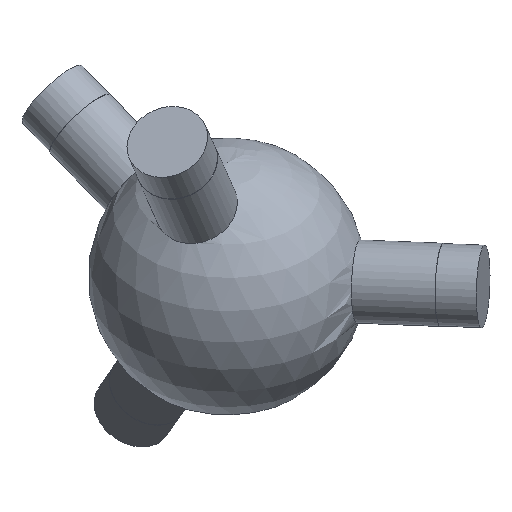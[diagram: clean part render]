
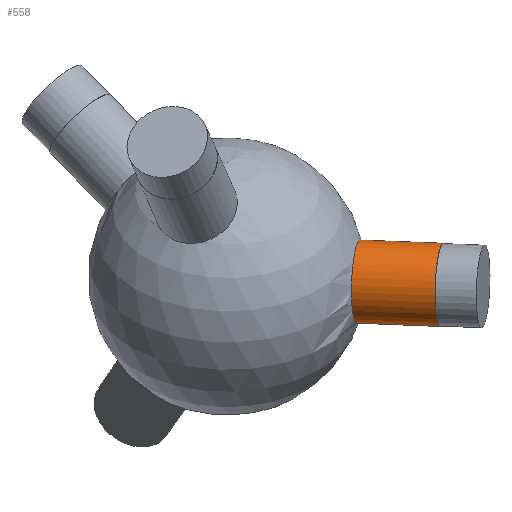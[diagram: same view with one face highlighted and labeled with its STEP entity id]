
A CAD part, isometric view. The second image highlights one B-rep face of the part: STEP entity #558.
In plain terms, the highlighted cylindrical face has radius 6 mm (diameter 12 mm), a full revolution.
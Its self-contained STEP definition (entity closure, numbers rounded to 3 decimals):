
#35 = SPHERICAL_SURFACE('',#36,20.);
#36 = AXIS2_PLACEMENT_3D('',#37,#38,#39);
#37 = CARTESIAN_POINT('',(0.,0.,0.));
#38 = DIRECTION('',(0.,0.,1.));
#39 = DIRECTION('',(1.,0.,-0.));
#237 = EDGE_CURVE('',#238,#238,#240,.T.);
#238 = VERTEX_POINT('',#239);
#239 = CARTESIAN_POINT('',(6.391,-18.915,1.167
    ));
#240 = SURFACE_CURVE('',#241,(#246,#308),.PCURVE_S1.);
#241 = CIRCLE('',#242,6.);
#242 = AXIS2_PLACEMENT_3D('',#243,#244,#245);
#243 = CARTESIAN_POINT('',(11.235,-15.375,
    1.167));
#244 = DIRECTION('',(0.589,-0.806,0.061));
#245 = DIRECTION('',(0.807,0.59,0.));
#246 = PCURVE('',#35,#247);
#247 = DEFINITIONAL_REPRESENTATION('',(#248),#307);
#248 = B_SPLINE_CURVE_WITH_KNOTS('',8,(#249,#250,#251,#252,#253,#254,
    #255,#256,#257,#258,#259,#260,#261,#262,#263,#264,#265,#266,#267,
    #268,#269,#270,#271,#272,#273,#274,#275,#276,#277,#278,#279,#280,
    #281,#282,#283,#284,#285,#286,#287,#288,#289,#290,#291,#292,#293,
    #294,#295,#296,#297,#298,#299,#300,#301,#302,#303,#304,#305,#306),
  .UNSPECIFIED.,.F.,.F.,(9,7,7,7,7,7,7,7,9),(3.142,
    3.927,4.614,5.216,6.268,
    7.057,7.649,8.537,9.425),
  .UNSPECIFIED.);
#249 = CARTESIAN_POINT('',(5.038,0.058));
#250 = CARTESIAN_POINT('',(5.039,0.029));
#251 = CARTESIAN_POINT('',(5.042,0.));
#252 = CARTESIAN_POINT('',(5.049,-0.029));
#253 = CARTESIAN_POINT('',(5.059,-0.058));
#254 = CARTESIAN_POINT('',(5.072,-0.084));
#255 = CARTESIAN_POINT('',(5.088,-0.11));
#256 = CARTESIAN_POINT('',(5.106,-0.133));
#257 = CARTESIAN_POINT('',(5.145,-0.172));
#258 = CARTESIAN_POINT('',(5.165,-0.189));
#259 = CARTESIAN_POINT('',(5.187,-0.204));
#260 = CARTESIAN_POINT('',(5.211,-0.216));
#261 = CARTESIAN_POINT('',(5.235,-0.226));
#262 = CARTESIAN_POINT('',(5.261,-0.234));
#263 = CARTESIAN_POINT('',(5.287,-0.239));
#264 = CARTESIAN_POINT('',(5.336,-0.244));
#265 = CARTESIAN_POINT('',(5.36,-0.245));
#266 = CARTESIAN_POINT('',(5.383,-0.243));
#267 = CARTESIAN_POINT('',(5.406,-0.239));
#268 = CARTESIAN_POINT('',(5.429,-0.233));
#269 = CARTESIAN_POINT('',(5.451,-0.226));
#270 = CARTESIAN_POINT('',(5.472,-0.217));
#271 = CARTESIAN_POINT('',(5.527,-0.186));
#272 = CARTESIAN_POINT('',(5.559,-0.161));
#273 = CARTESIAN_POINT('',(5.587,-0.132));
#274 = CARTESIAN_POINT('',(5.61,-0.099));
#275 = CARTESIAN_POINT('',(5.628,-0.063));
#276 = CARTESIAN_POINT('',(5.64,-0.025));
#277 = CARTESIAN_POINT('',(5.647,0.014));
#278 = CARTESIAN_POINT('',(5.65,0.083));
#279 = CARTESIAN_POINT('',(5.647,0.113));
#280 = CARTESIAN_POINT('',(5.642,0.142));
#281 = CARTESIAN_POINT('',(5.633,0.171));
#282 = CARTESIAN_POINT('',(5.621,0.199));
#283 = CARTESIAN_POINT('',(5.607,0.225));
#284 = CARTESIAN_POINT('',(5.589,0.249));
#285 = CARTESIAN_POINT('',(5.553,0.287));
#286 = CARTESIAN_POINT('',(5.536,0.303));
#287 = CARTESIAN_POINT('',(5.517,0.316));
#288 = CARTESIAN_POINT('',(5.497,0.328));
#289 = CARTESIAN_POINT('',(5.476,0.339));
#290 = CARTESIAN_POINT('',(5.454,0.348));
#291 = CARTESIAN_POINT('',(5.432,0.354));
#292 = CARTESIAN_POINT('',(5.374,0.366));
#293 = CARTESIAN_POINT('',(5.338,0.369));
#294 = CARTESIAN_POINT('',(5.302,0.368));
#295 = CARTESIAN_POINT('',(5.266,0.361));
#296 = CARTESIAN_POINT('',(5.232,0.35));
#297 = CARTESIAN_POINT('',(5.2,0.335));
#298 = CARTESIAN_POINT('',(5.17,0.317));
#299 = CARTESIAN_POINT('',(5.118,0.273));
#300 = CARTESIAN_POINT('',(5.095,0.248));
#301 = CARTESIAN_POINT('',(5.076,0.22));
#302 = CARTESIAN_POINT('',(5.06,0.19));
#303 = CARTESIAN_POINT('',(5.049,0.158));
#304 = CARTESIAN_POINT('',(5.041,0.125));
#305 = CARTESIAN_POINT('',(5.038,0.092));
#306 = CARTESIAN_POINT('',(5.038,0.058));
#307 = ( GEOMETRIC_REPRESENTATION_CONTEXT(2) 
PARAMETRIC_REPRESENTATION_CONTEXT() REPRESENTATION_CONTEXT('2D SPACE',''
  ) );
#308 = PCURVE('',#309,#314);
#309 = CYLINDRICAL_SURFACE('',#310,6.);
#310 = AXIS2_PLACEMENT_3D('',#311,#312,#313);
#311 = CARTESIAN_POINT('',(0.,0.,0.));
#312 = DIRECTION('',(0.589,-0.806,0.061));
#313 = DIRECTION('',(-0.807,-0.59,0.
    ));
#314 = DEFINITIONAL_REPRESENTATION('',(#315),#319);
#315 = LINE('',#316,#317);
#316 = CARTESIAN_POINT('',(-3.142,19.079));
#317 = VECTOR('',#318,1.);
#318 = DIRECTION('',(1.,0.));
#319 = ( GEOMETRIC_REPRESENTATION_CONTEXT(2) 
PARAMETRIC_REPRESENTATION_CONTEXT() REPRESENTATION_CONTEXT('2D SPACE',''
  ) );
#558 = ADVANCED_FACE('',(#559),#309,.T.);
#559 = FACE_BOUND('',#560,.T.);
#560 = EDGE_LOOP('',(#561,#584,#611,#612));
#561 = ORIENTED_EDGE('',*,*,#562,.T.);
#562 = EDGE_CURVE('',#238,#563,#565,.T.);
#563 = VERTEX_POINT('',#564);
#564 = CARTESIAN_POINT('',(13.558,-28.723,1.911
    ));
#565 = SEAM_CURVE('',#566,(#570,#577),.PCURVE_S1.);
#566 = LINE('',#567,#568);
#567 = CARTESIAN_POINT('',(-4.844,-3.54,
    0.));
#568 = VECTOR('',#569,1.);
#569 = DIRECTION('',(0.589,-0.806,0.061));
#570 = PCURVE('',#309,#571);
#571 = DEFINITIONAL_REPRESENTATION('',(#572),#576);
#572 = LINE('',#573,#574);
#573 = CARTESIAN_POINT('',(6.283,-0.));
#574 = VECTOR('',#575,1.);
#575 = DIRECTION('',(0.,1.));
#576 = ( GEOMETRIC_REPRESENTATION_CONTEXT(2) 
PARAMETRIC_REPRESENTATION_CONTEXT() REPRESENTATION_CONTEXT('2D SPACE',''
  ) );
#577 = PCURVE('',#309,#578);
#578 = DEFINITIONAL_REPRESENTATION('',(#579),#583);
#579 = LINE('',#580,#581);
#580 = CARTESIAN_POINT('',(0.,-0.));
#581 = VECTOR('',#582,1.);
#582 = DIRECTION('',(0.,1.));
#583 = ( GEOMETRIC_REPRESENTATION_CONTEXT(2) 
PARAMETRIC_REPRESENTATION_CONTEXT() REPRESENTATION_CONTEXT('2D SPACE',''
  ) );
#584 = ORIENTED_EDGE('',*,*,#585,.F.);
#585 = EDGE_CURVE('',#563,#563,#586,.T.);
#586 = SURFACE_CURVE('',#587,(#592,#599),.PCURVE_S1.);
#587 = CIRCLE('',#588,6.);
#588 = AXIS2_PLACEMENT_3D('',#589,#590,#591);
#589 = CARTESIAN_POINT('',(18.402,-25.183,1.911
    ));
#590 = DIRECTION('',(0.589,-0.806,0.061));
#591 = DIRECTION('',(-0.807,-0.59,0.
    ));
#592 = PCURVE('',#309,#593);
#593 = DEFINITIONAL_REPRESENTATION('',(#594),#598);
#594 = LINE('',#595,#596);
#595 = CARTESIAN_POINT('',(0.,31.248));
#596 = VECTOR('',#597,1.);
#597 = DIRECTION('',(1.,0.));
#598 = ( GEOMETRIC_REPRESENTATION_CONTEXT(2) 
PARAMETRIC_REPRESENTATION_CONTEXT() REPRESENTATION_CONTEXT('2D SPACE',''
  ) );
#599 = PCURVE('',#600,#605);
#600 = PLANE('',#601);
#601 = AXIS2_PLACEMENT_3D('',#602,#603,#604);
#602 = CARTESIAN_POINT('',(18.402,-25.183,1.911
    ));
#603 = DIRECTION('',(0.589,-0.806,0.061));
#604 = DIRECTION('',(-0.807,-0.59,0.
    ));
#605 = DEFINITIONAL_REPRESENTATION('',(#606),#610);
#606 = CIRCLE('',#607,6.);
#607 = AXIS2_PLACEMENT_2D('',#608,#609);
#608 = CARTESIAN_POINT('',(0.,0.));
#609 = DIRECTION('',(1.,0.));
#610 = ( GEOMETRIC_REPRESENTATION_CONTEXT(2) 
PARAMETRIC_REPRESENTATION_CONTEXT() REPRESENTATION_CONTEXT('2D SPACE',''
  ) );
#611 = ORIENTED_EDGE('',*,*,#562,.F.);
#612 = ORIENTED_EDGE('',*,*,#237,.T.);
